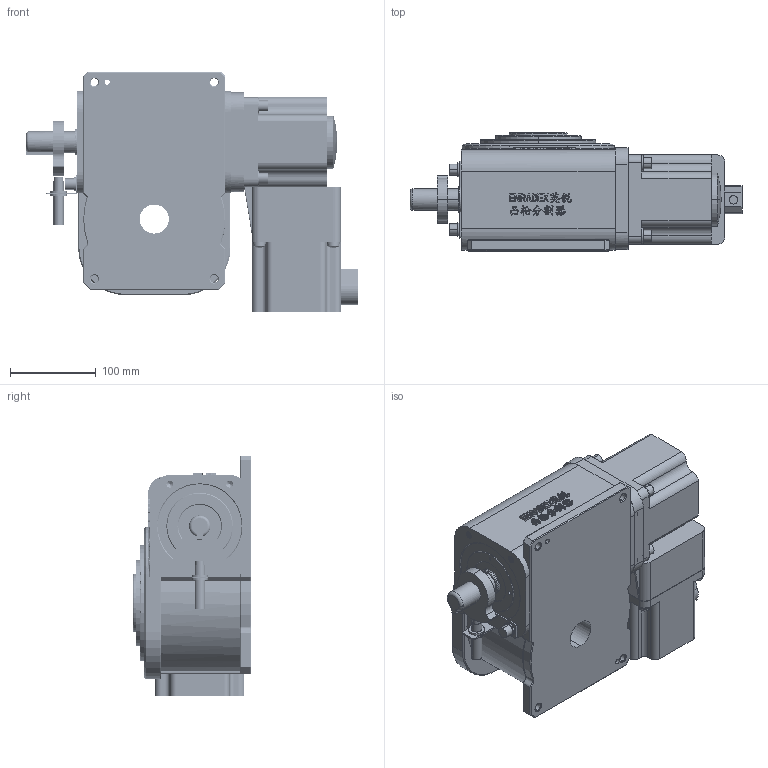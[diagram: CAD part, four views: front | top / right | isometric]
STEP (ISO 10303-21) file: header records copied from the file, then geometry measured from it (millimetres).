
FILE_DESCRIPTION (( 'STEP AP214' ), '1' );
FILE_NAME ('ER-RU90DA英锐凸轮分割器固定盘壳体法兰面销孔3D水平直联式右侧ZDWS(电话15062628977)AA.STEP', '2022-07-25T11:19:50', ( '微软用户' ), ( '微软中国' ), 'SwSTEP 2.0', 'SolidWorks 2017', '' );
FILE_SCHEMA (( 'AUTOMOTIVE_DESIGN' ));
Length unit declared in the file: millimetre
Products named in the file (1): ER-RU90DA英锐凸轮分割器固定盘壳体法兰面销孔3D水平直联式右侧ZDWS(电话15062628977)AA
Bounding box: 388.25 x 138 x 280.75 mm (x, y, z)
Volume: 7402066.3 mm3; surface area: 421877.1 mm2
Topology: 3 solids, 14 shells, 1978 faces, 5059 edges, 3267 vertices
Faces by surface type: cylinder 798, plane 635, bspline 357, cone 167, torus 19, sphere 2
Entity records: 135366 total; most frequent: CARTESIAN_POINT 89254, ORIENTED_EDGE 10030, DIRECTION 7173, EDGE_CURVE 5015, VERTEX_POINT 3267, AXIS2_PLACEMENT_3D 2404, VECTOR 2365, LINE 2365
